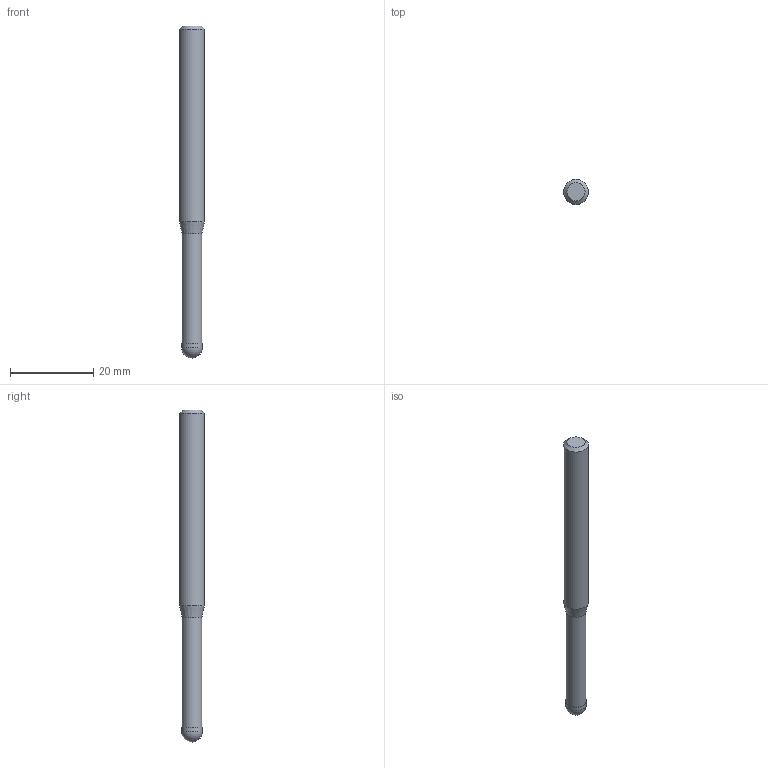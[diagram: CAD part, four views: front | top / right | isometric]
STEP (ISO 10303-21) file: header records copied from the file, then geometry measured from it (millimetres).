
FILE_DESCRIPTION((''),'2;1');
FILE_NAME('C:\Users\nsx150\AppData\Local\Temp\Mastercam 2021\ARV7HD45SN\TEMP.step','2023-06-13T16:39:32',(''),(''),'STEP Write','Mastercam 2021 ... CNC Software, Inc.','');
FILE_SCHEMA(('AUTOMOTIVE_DESIGN'));
Length unit declared in the file: millimetre
Products named in the file (1): None
Bounding box: 6 x 6 x 80 mm (x, y, z)
Volume: 1925.2 mm3; surface area: 1449.2 mm2
Topology: 2 solids, 2 shells, 9 faces, 14 edges, 8 vertices
Faces by surface type: plane 3, cylinder 3, cone 2, sphere 1
Full cylindrical faces by diameter (mm): 4.8 x1, 5 x1, 6 x1
Entity records: 211 total; most frequent: DIRECTION 36, CARTESIAN_POINT 25, AXIS2_PLACEMENT_3D 18, ORIENTED_EDGE 14, EDGE_LOOP 14, STYLED_ITEM 12, ADVANCED_FACE 9, FACE_BOUND 8
